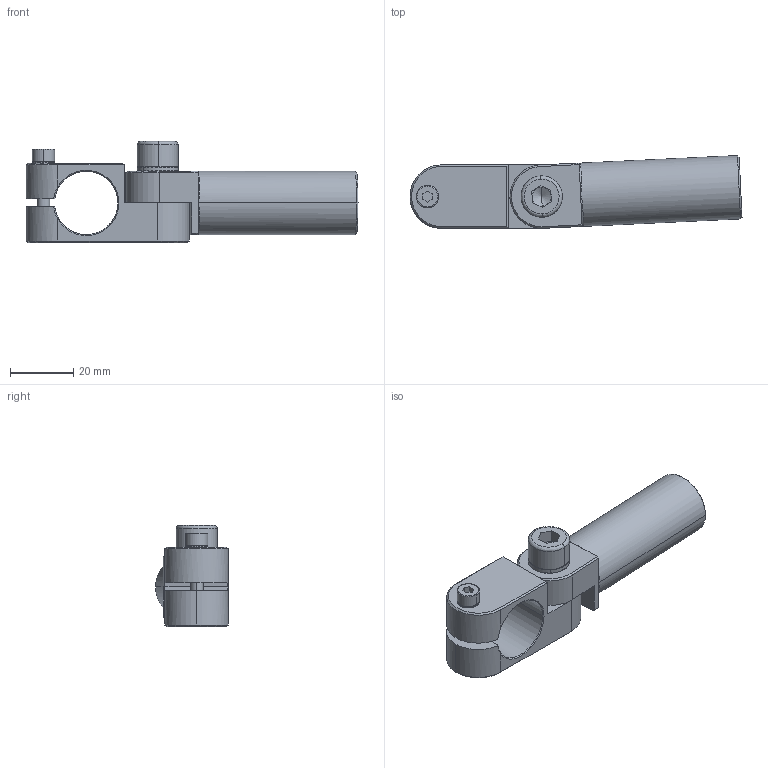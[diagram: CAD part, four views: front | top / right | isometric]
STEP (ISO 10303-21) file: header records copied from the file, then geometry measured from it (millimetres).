
FILE_DESCRIPTION (( 'STEP AP214' ), '1' );
FILE_NAME ('SEA-2020L50.STEP', '2019-11-11T02:53:05', ( '微软用户' ), ( '微软中国' ), 'SwSTEP 2.0', 'SolidWorks 2016', '' );
FILE_SCHEMA (( 'AUTOMOTIVE_DESIGN' ));
Length unit declared in the file: millimetre
Products named in the file (1): SEA-2020L50
Bounding box: 104.68 x 22.96 x 31.9 mm (x, y, z)
Volume: 25510.5 mm3; surface area: 15211.3 mm2
Topology: 6 solids, 6 shells, 563 faces, 1607 edges, 1042 vertices
Faces by surface type: plane 485, cylinder 35, cone 25, bspline 18
Entity records: 26915 total; most frequent: CARTESIAN_POINT 5665, ORIENTED_EDGE 3184, DIRECTION 3183, EDGE_CURVE 1592, AXIS2_PLACEMENT_3D 1077, VERTEX_POINT 1042, VECTOR 1029, LINE 1029
